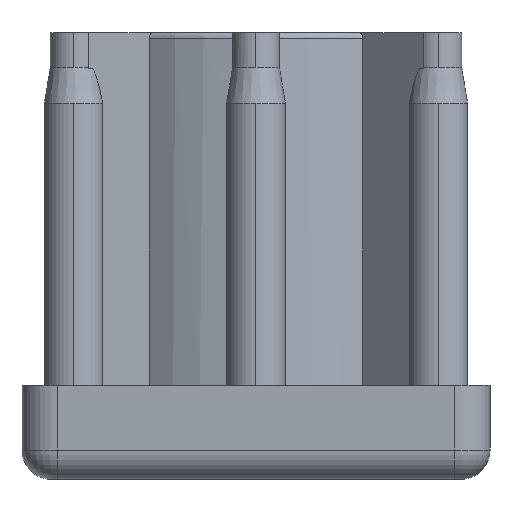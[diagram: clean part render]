
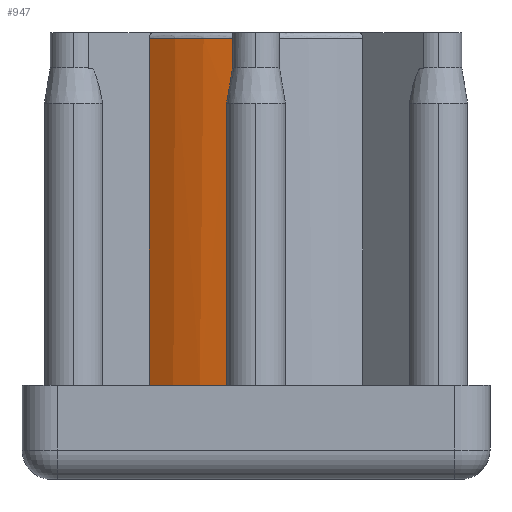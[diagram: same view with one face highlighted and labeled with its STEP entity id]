
A CAD part, left-side view. The second image highlights one B-rep face of the part: STEP entity #947.
In plain terms, the highlighted cylindrical face has radius 15 mm (diameter 30 mm), a partial arc.
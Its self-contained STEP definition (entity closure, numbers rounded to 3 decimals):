
#162 = DIRECTION ( 'NONE',  ( 0., 0., 1. ) ) ;
#395 = CARTESIAN_POINT ( 'NONE',  ( 0., 0., 30. ) ) ;
#397 = ORIENTED_EDGE ( 'NONE', *, *, #3543, .F. ) ;
#536 = CARTESIAN_POINT ( 'NONE',  ( 0., 0., 29.5 ) ) ;
#549 = ORIENTED_EDGE ( 'NONE', *, *, #2076, .F. ) ;
#697 = CARTESIAN_POINT ( 'NONE',  ( -11.926, 9.098, 29.5 ) ) ;
#707 = CIRCLE ( 'NONE', #3217, 15. ) ;
#809 = CARTESIAN_POINT ( 'NONE',  ( -14.806, 2.402, 24. ) ) ;
#821 = CIRCLE ( 'NONE', #3053, 15. ) ;
#829 = DIRECTION ( 'NONE',  ( 0., 0., -1. ) ) ;
#936 = LINE ( 'NONE', #1829, #2547 ) ;
#947 = ADVANCED_FACE ( 'NONE', ( #2088 ), #1452, .T. ) ;
#960 = VERTEX_POINT ( 'NONE', #2291 ) ;
#990 = CARTESIAN_POINT ( 'NONE',  ( -11.926, 9.098, 0. ) ) ;
#1064 = ORIENTED_EDGE ( 'NONE', *, *, #1693, .T. ) ;
#1065 = EDGE_CURVE ( 'NONE', #2955, #1784, #1399, .T. ) ;
#1075 = AXIS2_PLACEMENT_3D ( 'NONE', #395, #3421, #1616 ) ;
#1121 = ORIENTED_EDGE ( 'NONE', *, *, #2957, .T. ) ;
#1138 = DIRECTION ( 'NONE',  ( 1., 0., 0. ) ) ;
#1399 = LINE ( 'NONE', #3167, #3025 ) ;
#1452 = CYLINDRICAL_SURFACE ( 'NONE', #1075, 15. ) ;
#1616 = DIRECTION ( 'NONE',  ( -1., 0., 0. ) ) ;
#1657 = B_SPLINE_CURVE_WITH_KNOTS ( 'NONE', 3,
 ( #2360, #3573, #2091, #809 ),
 .UNSPECIFIED., .F., .F.,
 ( 4, 4 ),
 ( 0., 1. ),
 .UNSPECIFIED. ) ;
#1693 = EDGE_CURVE ( 'NONE', #2955, #2043, #821, .T. ) ;
#1784 = VERTEX_POINT ( 'NONE', #2444 ) ;
#1829 = CARTESIAN_POINT ( 'NONE',  ( -14.806, 2.402, 12. ) ) ;
#1944 = VERTEX_POINT ( 'NONE', #990 ) ;
#2040 = CARTESIAN_POINT ( 'NONE',  ( -11.926, 9.098, 30. ) ) ;
#2043 = VERTEX_POINT ( 'NONE', #697 ) ;
#2048 = ORIENTED_EDGE ( 'NONE', *, *, #1065, .F. ) ;
#2076 = EDGE_CURVE ( 'NONE', #1944, #2043, #3070, .T. ) ;
#2088 = FACE_OUTER_BOUND ( 'NONE', #3496, .T. ) ;
#2091 = CARTESIAN_POINT ( 'NONE',  ( -14.833, 2.235, 25. ) ) ;
#2291 = CARTESIAN_POINT ( 'NONE',  ( -14.806, 2.402, 0. ) ) ;
#2360 = CARTESIAN_POINT ( 'NONE',  ( -14.879, 1.899, 27. ) ) ;
#2371 = CARTESIAN_POINT ( 'NONE',  ( -14.879, 1.899, 29.5 ) ) ;
#2444 = CARTESIAN_POINT ( 'NONE',  ( -14.879, 1.899, 27. ) ) ;
#2547 = VECTOR ( 'NONE', #3931, 1000. ) ;
#2682 = CARTESIAN_POINT ( 'NONE',  ( 0., 0., 0. ) ) ;
#2730 = CARTESIAN_POINT ( 'NONE',  ( -14.806, 2.402, 24. ) ) ;
#2892 = VECTOR ( 'NONE', #162, 1000. ) ;
#2948 = EDGE_CURVE ( 'NONE', #1784, #3925, #1657, .T. ) ;
#2955 = VERTEX_POINT ( 'NONE', #2371 ) ;
#2957 = EDGE_CURVE ( 'NONE', #1944, #960, #707, .T. ) ;
#2968 = DIRECTION ( 'NONE',  ( 1., 0., 0. ) ) ;
#3025 = VECTOR ( 'NONE', #3471, 1000. ) ;
#3053 = AXIS2_PLACEMENT_3D ( 'NONE', #536, #829, #2968 ) ;
#3070 = LINE ( 'NONE', #2040, #2892 ) ;
#3167 = CARTESIAN_POINT ( 'NONE',  ( -14.879, 1.899, 28.5 ) ) ;
#3217 = AXIS2_PLACEMENT_3D ( 'NONE', #2682, #3268, #1138 ) ;
#3268 = DIRECTION ( 'NONE',  ( 0., 0., 1. ) ) ;
#3307 = ORIENTED_EDGE ( 'NONE', *, *, #2948, .F. ) ;
#3421 = DIRECTION ( 'NONE',  ( 0., 0., -1. ) ) ;
#3471 = DIRECTION ( 'NONE',  ( 0., 0., -1. ) ) ;
#3496 = EDGE_LOOP ( 'NONE', ( #2048, #1064, #549, #1121, #397, #3307 ) ) ;
#3543 = EDGE_CURVE ( 'NONE', #3925, #960, #936, .T. ) ;
#3573 = CARTESIAN_POINT ( 'NONE',  ( -14.858, 2.068, 26. ) ) ;
#3925 = VERTEX_POINT ( 'NONE', #2730 ) ;
#3931 = DIRECTION ( 'NONE',  ( 0., 0., -1. ) ) ;
